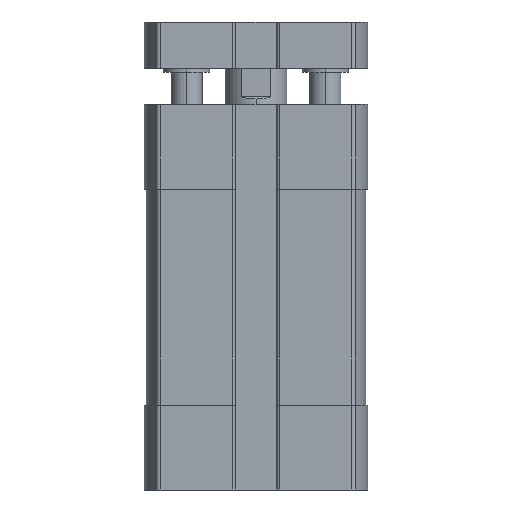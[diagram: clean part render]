
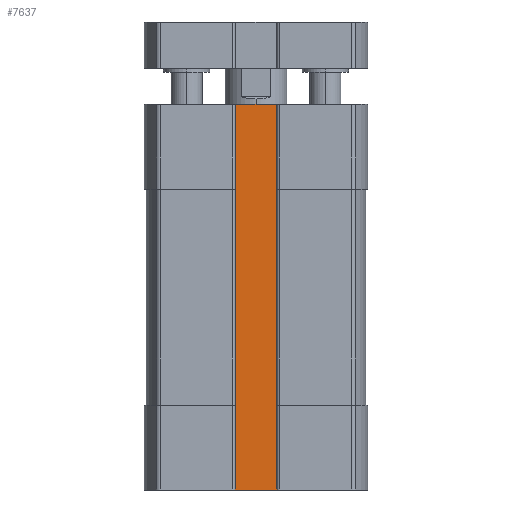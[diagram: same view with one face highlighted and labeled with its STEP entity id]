
A CAD part, front view. The second image highlights one B-rep face of the part: STEP entity #7637.
In plain terms, the highlighted planar face has unit normal (0, -1, 0).
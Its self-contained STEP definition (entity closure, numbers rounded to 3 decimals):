
#339 = LINE ( 'NONE', #16772, #11653 ) ;
#589 = LINE ( 'NONE', #11993, #8388 ) ;
#1327 = EDGE_CURVE ( 'NONE', #3902, #2416, #9081, .T. ) ;
#1853 = DIRECTION ( 'NONE',  ( 0., 0., 1. ) ) ;
#2416 = VERTEX_POINT ( 'NONE', #9867 ) ;
#2540 = VECTOR ( 'NONE', #7792, 1000. ) ;
#2556 = EDGE_CURVE ( 'NONE', #15057, #3902, #339, .T. ) ;
#2894 = DIRECTION ( 'NONE',  ( 0., 0., 1. ) ) ;
#3499 = ORIENTED_EDGE ( 'NONE', *, *, #2556, .T. ) ;
#3902 = VERTEX_POINT ( 'NONE', #7698 ) ;
#4308 = EDGE_LOOP ( 'NONE', ( #13091, #11871, #3499, #13695 ) ) ;
#4454 = EDGE_CURVE ( 'NONE', #17075, #2416, #9105, .T. ) ;
#5594 = CARTESIAN_POINT ( 'NONE',  ( -3., -9.3, 0. ) ) ;
#7637 = ADVANCED_FACE ( 'NONE', ( #8213 ), #12469, .T. ) ;
#7678 = CARTESIAN_POINT ( 'NONE',  ( -3., -9.3, 0. ) ) ;
#7698 = CARTESIAN_POINT ( 'NONE',  ( 3., -9.3, -50. ) ) ;
#7792 = DIRECTION ( 'NONE',  ( 1., 0., 0. ) ) ;
#8213 = FACE_OUTER_BOUND ( 'NONE', #4308, .T. ) ;
#8254 = VECTOR ( 'NONE', #13879, 1000. ) ;
#8388 = VECTOR ( 'NONE', #2894, 1000. ) ;
#8452 = DIRECTION ( 'NONE',  ( 0., -1., 0. ) ) ;
#9081 = LINE ( 'NONE', #16588, #8254 ) ;
#9105 = LINE ( 'NONE', #7678, #2540 ) ;
#9867 = CARTESIAN_POINT ( 'NONE',  ( 3., -9.3, 0. ) ) ;
#11589 = CARTESIAN_POINT ( 'NONE',  ( -3., -9.3, -50. ) ) ;
#11653 = VECTOR ( 'NONE', #15375, 1000. ) ;
#11871 = ORIENTED_EDGE ( 'NONE', *, *, #14792, .F. ) ;
#11993 = CARTESIAN_POINT ( 'NONE',  ( -3., -9.3, -50. ) ) ;
#12469 = PLANE ( 'NONE',  #14453 ) ;
#13091 = ORIENTED_EDGE ( 'NONE', *, *, #4454, .F. ) ;
#13695 = ORIENTED_EDGE ( 'NONE', *, *, #1327, .T. ) ;
#13879 = DIRECTION ( 'NONE',  ( 0., 0., 1. ) ) ;
#14453 = AXIS2_PLACEMENT_3D ( 'NONE', #15006, #8452, #1853 ) ;
#14792 = EDGE_CURVE ( 'NONE', #15057, #17075, #589, .T. ) ;
#15006 = CARTESIAN_POINT ( 'NONE',  ( -3., -9.3, -50. ) ) ;
#15057 = VERTEX_POINT ( 'NONE', #11589 ) ;
#15375 = DIRECTION ( 'NONE',  ( 1., 0., 0. ) ) ;
#16588 = CARTESIAN_POINT ( 'NONE',  ( 3., -9.3, -50. ) ) ;
#16772 = CARTESIAN_POINT ( 'NONE',  ( -3., -9.3, -50. ) ) ;
#17075 = VERTEX_POINT ( 'NONE', #5594 ) ;
